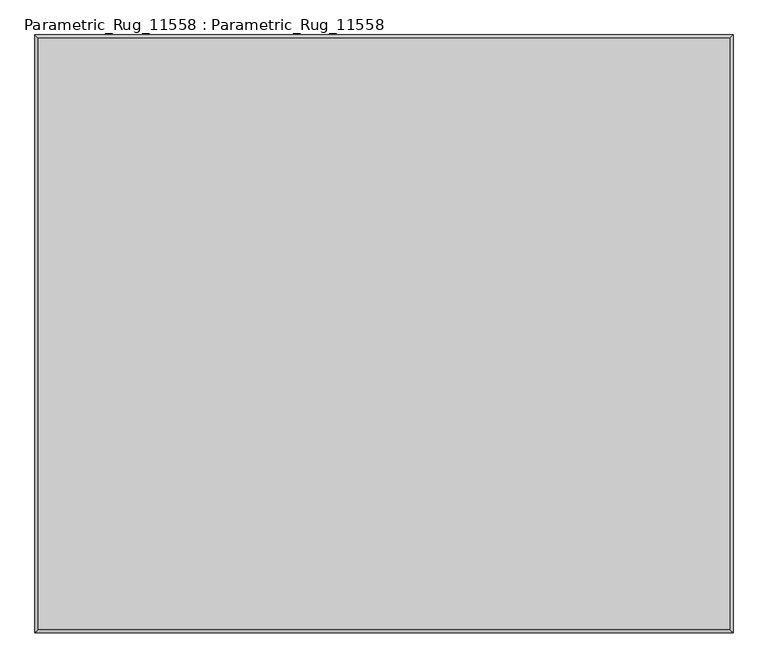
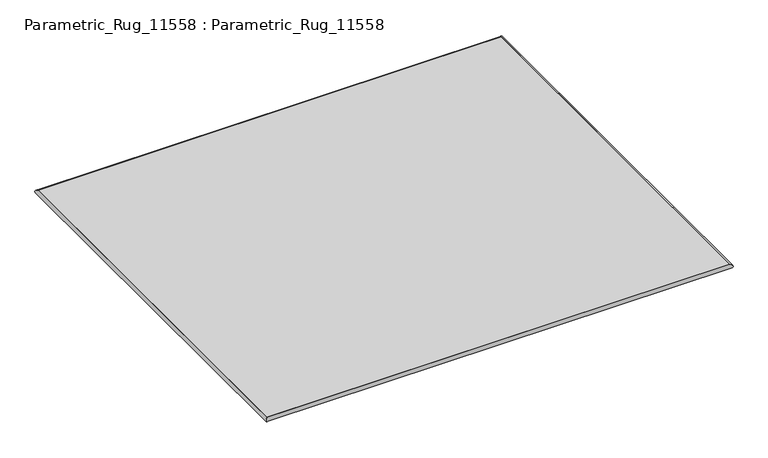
"""IFC4 building model written with IfcOpenShell, lengths in millimetres: furniture geometry, Parametric_Rug_11558 : Parametric_Rug_11558."""

from ifc_helpers import new_model, si_unit, frame, origin, origin_with_axes, place, context, project, spatial, polyline, ellipse_curve, outline, extrude, source, transform, mapped, element, save
from ifc_brep_helpers import plane_surface, cylinder_surface, advanced_brep


def parametric_rug_11558_parametric_rug_11558_8a5cf877(model_context):
    return source(origin(), model_context, "Body", "SolidModel", [
        advanced_brep(
        [(3470.0, -2970.0, 0.0), (3470.0, -2970.0, 30.0), (3470.0, 0.0, 30.0), (3470.0, 0.0, 0.0), (0.0, 0.0, 30.0), (0.0, 0.0, 0.0), (0.0, -2970.0, 30.0), (0.0, -2970.0, 0.0)],
        [
            (0, 1),
            (1, 2),
            (2, 3),
            (3, 0),
            (1, 0, ellipse_curve(frame((3470.0, -2970.0, 15.0), z_axis=(0.7071067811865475, 0.7071067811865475, 0.0), x_axis=(0.7071067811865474, -0.7071067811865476, 0.0)), 21.2132034, 15.0)),
            (3, 2, ellipse_curve(frame((3470.0, 0.0, 15.0), z_axis=(0.7071067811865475, -0.7071067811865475, 0.0), x_axis=(-0.7071067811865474, -0.7071067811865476, 0.0)), 21.2132034, 15.0)),
            (2, 4),
            (4, 5),
            (5, 3),
            (5, 4, ellipse_curve(frame((0.0, 0.0, 15.0), z_axis=(0.7071067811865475, 0.7071067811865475, 0.0), x_axis=(0.7071067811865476, -0.7071067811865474, 0.0)), 21.2132034, 15.0)),
            (4, 6),
            (6, 7),
            (7, 5),
            (7, 6, ellipse_curve(frame((0.0, -2970.0, 15.0), z_axis=(-0.7071067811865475, 0.7071067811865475, 0.0), x_axis=(0.7071067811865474, 0.7071067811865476, 0.0)), 21.2132034, 15.0)),
            (6, 1),
            (0, 7),
        ],
        [
            plane_surface(frame((3470.0, -2970.0, 30.0), z_axis=(-1.0, 0.0, 0.0), x_axis=(0.0, 1.0, 0.0))),
            cylinder_surface(frame((3470.0, -2970.0, 15.0), z_axis=(0.0, -1.0, 0.0), x_axis=(-1.0, 0.0, 0.0)), 15.0),
            plane_surface(frame((3470.0, 0.0, 30.0), z_axis=(0.0, -1.0, 0.0), x_axis=(-1.0, 0.0, 0.0))),
            cylinder_surface(frame((3470.0, 0.0, 15.0), z_axis=(1.0, 0.0, 0.0), x_axis=(0.0, -1.0, 0.0)), 15.0),
            plane_surface(frame((0.0, 0.0, 30.0), z_axis=(1.0, 0.0, 0.0), x_axis=(0.0, -1.0, 0.0))),
            cylinder_surface(frame((0.0, 0.0, 15.0), z_axis=(0.0, 1.0, 0.0), x_axis=(1.0, 0.0, 0.0)), 15.0),
            plane_surface(frame((0.0, -2970.0, 30.0), z_axis=(0.0, 1.0, 0.0), x_axis=(1.0, 0.0, 0.0))),
            cylinder_surface(frame((0.0, -2970.0, 15.0), z_axis=(-1.0, 0.0, 0.0), x_axis=(0.0, 1.0, 0.0)), 15.0),
        ],
        [
            (0, [[1, 2, 3, 4]]),
            (1, [[5, -4, 6, -2]]),
            (2, [[-3, 7, 8, 9]]),
            (3, [[-6, -9, 10, -7]]),
            (4, [[-8, 11, 12, 13]]),
            (5, [[-10, -13, 14, -11]]),
            (6, [[-12, 15, -1, 16]]),
            (7, [[-14, -16, -5, -15]]),
        ],
    ),
        extrude(outline(polyline([(3470.0, 0.0), (3470.0, -2970.0), (0.0, -2970.0), (0.0, 0.0), (3470.0, 0.0)])), origin_with_axes(), (0.0, 0.0, 1.0), 30.0),
    ])


if __name__ == "__main__":
    model = new_model("IFC4")
    model_context = context("Model", 3, world=origin())
    ifc_project = project(units=[si_unit("LENGTHUNIT", "METRE", prefix="MILLI")], contexts=[model_context])
    site = spatial("IfcSite", under=ifc_project)
    building = spatial("IfcBuilding", under=site)
    placement = place(None, origin())
    parametric_rug_11558_parametric_rug_11558_shape = parametric_rug_11558_parametric_rug_11558_8a5cf877(model_context)
    element("IfcFurniture", 1, ObjectType="Parametric_Rug_11558 : Parametric_Rug_11558", at=placement, inside=building, context=model_context, shape_type="MappedRepresentation", body=[
        mapped(parametric_rug_11558_parametric_rug_11558_shape, transform((0.0, 0.0, 0.0), x_axis=(1.0, 0.0, 0.0), y_axis=(0.0, 1.0, 0.0), z_axis=(0.0, 0.0, 1.0))),
    ])
    save(model, "model.ifc")
